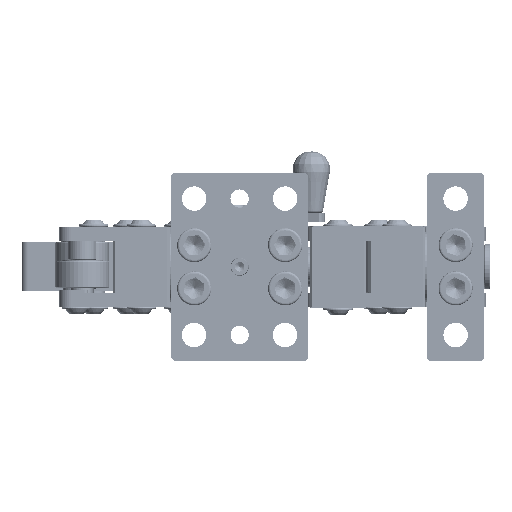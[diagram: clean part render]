
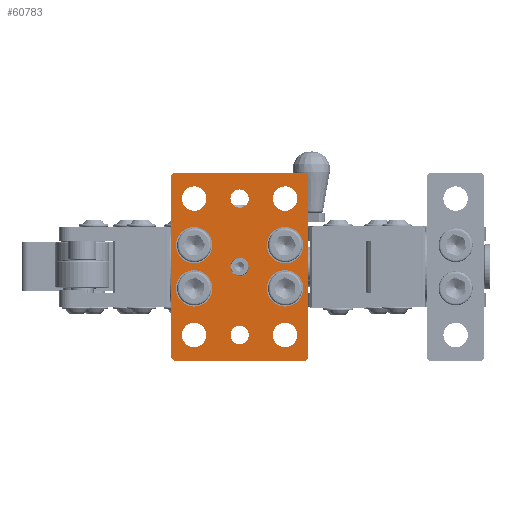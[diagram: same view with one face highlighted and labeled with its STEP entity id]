
A CAD part, left-side view. The second image highlights one B-rep face of the part: STEP entity #60783.
In plain terms, the highlighted planar face has unit normal (-1, 0, 0) as drawn and (0, 0, -1) by its records, which use the part's own axes.
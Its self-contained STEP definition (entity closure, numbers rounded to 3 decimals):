
#5961=FACE_BOUND('',#14600,.T.);
#5962=FACE_BOUND('',#14601,.T.);
#5963=FACE_BOUND('',#14602,.T.);
#5964=FACE_BOUND('',#14603,.T.);
#5965=FACE_BOUND('',#14604,.T.);
#5966=FACE_BOUND('',#14605,.T.);
#5967=FACE_BOUND('',#14606,.T.);
#5968=FACE_BOUND('',#14607,.T.);
#5969=FACE_BOUND('',#14608,.T.);
#5970=FACE_BOUND('',#14609,.T.);
#5971=FACE_BOUND('',#14610,.T.);
#7820=PLANE('',#63933);
#10764=FACE_OUTER_BOUND('',#14599,.T.);
#14599=EDGE_LOOP('',(#55010,#55011,#55012,#55013,#55014,#55015,#55016,#55017));
#14600=EDGE_LOOP('',(#55018));
#14601=EDGE_LOOP('',(#55019));
#14602=EDGE_LOOP('',(#55020));
#14603=EDGE_LOOP('',(#55021));
#14604=EDGE_LOOP('',(#55022));
#14605=EDGE_LOOP('',(#55023));
#14606=EDGE_LOOP('',(#55024));
#14607=EDGE_LOOP('',(#55025));
#14608=EDGE_LOOP('',(#55026));
#14609=EDGE_LOOP('',(#55027));
#14610=EDGE_LOOP('',(#55028));
#20289=LINE('',#102463,#25908);
#20296=LINE('',#102475,#25915);
#20302=LINE('',#102487,#25921);
#20304=LINE('',#102491,#25923);
#20306=LINE('',#102497,#25925);
#20308=LINE('',#102501,#25927);
#20313=LINE('',#102509,#25932);
#20316=LINE('',#102560,#25935);
#25908=VECTOR('',#74285,2.828);
#25915=VECTOR('',#74294,161.);
#25921=VECTOR('',#74304,2.828);
#25923=VECTOR('',#74308,116.);
#25925=VECTOR('',#74314,2.828);
#25927=VECTOR('',#74318,161.);
#25932=VECTOR('',#74325,2.828);
#25935=VECTOR('',#74392,116.);
#27136=CIRCLE('',#63859,8.05);
#27139=CIRCLE('',#63863,8.05);
#27140=CIRCLE('',#63865,8.05);
#27143=CIRCLE('',#63871,10.75);
#27147=CIRCLE('',#63878,10.75);
#27151=CIRCLE('',#63885,10.75);
#27154=CIRCLE('',#63891,10.75);
#27161=CIRCLE('',#63912,16.);
#27164=CIRCLE('',#63918,16.);
#27167=CIRCLE('',#63924,16.);
#27170=CIRCLE('',#63930,16.);
#31950=VERTEX_POINT('',#102404);
#31953=VERTEX_POINT('',#102411);
#31954=VERTEX_POINT('',#102414);
#31957=VERTEX_POINT('',#102423);
#31961=VERTEX_POINT('',#102434);
#31965=VERTEX_POINT('',#102445);
#31968=VERTEX_POINT('',#102454);
#31971=VERTEX_POINT('',#102460);
#31972=VERTEX_POINT('',#102462);
#31976=VERTEX_POINT('',#102473);
#31980=VERTEX_POINT('',#102485);
#31981=VERTEX_POINT('',#102489);
#31982=VERTEX_POINT('',#102494);
#31983=VERTEX_POINT('',#102496);
#31984=VERTEX_POINT('',#102500);
#31993=VERTEX_POINT('',#102529);
#31996=VERTEX_POINT('',#102538);
#31999=VERTEX_POINT('',#102547);
#32002=VERTEX_POINT('',#102556);
#39797=EDGE_CURVE('',#31950,#31950,#27136,.T.);
#39800=EDGE_CURVE('',#31953,#31953,#27139,.T.);
#39801=EDGE_CURVE('',#31954,#31954,#27140,.T.);
#39804=EDGE_CURVE('',#31957,#31957,#27143,.T.);
#39808=EDGE_CURVE('',#31961,#31961,#27147,.T.);
#39812=EDGE_CURVE('',#31965,#31965,#27151,.T.);
#39815=EDGE_CURVE('',#31968,#31968,#27154,.T.);
#39818=EDGE_CURVE('',#31971,#31972,#20289,.T.);
#39825=EDGE_CURVE('',#31971,#31976,#20296,.T.);
#39831=EDGE_CURVE('',#31980,#31976,#20302,.T.);
#39833=EDGE_CURVE('',#31980,#31981,#20304,.T.);
#39835=EDGE_CURVE('',#31982,#31983,#20306,.T.);
#39837=EDGE_CURVE('',#31984,#31983,#20308,.T.);
#39842=EDGE_CURVE('',#31984,#31981,#20313,.T.);
#39851=EDGE_CURVE('',#31993,#31993,#27161,.T.);
#39854=EDGE_CURVE('',#31996,#31996,#27164,.T.);
#39857=EDGE_CURVE('',#31999,#31999,#27167,.T.);
#39860=EDGE_CURVE('',#32002,#32002,#27170,.T.);
#39861=EDGE_CURVE('',#31982,#31972,#20316,.T.);
#55010=ORIENTED_EDGE('',*,*,#39818,.F.);
#55011=ORIENTED_EDGE('',*,*,#39825,.T.);
#55012=ORIENTED_EDGE('',*,*,#39831,.F.);
#55013=ORIENTED_EDGE('',*,*,#39833,.T.);
#55014=ORIENTED_EDGE('',*,*,#39842,.F.);
#55015=ORIENTED_EDGE('',*,*,#39837,.T.);
#55016=ORIENTED_EDGE('',*,*,#39835,.F.);
#55017=ORIENTED_EDGE('',*,*,#39861,.T.);
#55018=ORIENTED_EDGE('',*,*,#39797,.T.);
#55019=ORIENTED_EDGE('',*,*,#39800,.T.);
#55020=ORIENTED_EDGE('',*,*,#39801,.T.);
#55021=ORIENTED_EDGE('',*,*,#39804,.T.);
#55022=ORIENTED_EDGE('',*,*,#39808,.T.);
#55023=ORIENTED_EDGE('',*,*,#39812,.T.);
#55024=ORIENTED_EDGE('',*,*,#39815,.T.);
#55025=ORIENTED_EDGE('',*,*,#39851,.T.);
#55026=ORIENTED_EDGE('',*,*,#39854,.T.);
#55027=ORIENTED_EDGE('',*,*,#39857,.T.);
#55028=ORIENTED_EDGE('',*,*,#39860,.T.);
#60783=ADVANCED_FACE('',(#10764,#5961,#5962,#5963,#5964,#5965,#5966,#5967,
#5968,#5969,#5970,#5971),#7820,.F.);
#63859=AXIS2_PLACEMENT_3D('',#102405,#74215,#74216);
#63863=AXIS2_PLACEMENT_3D('',#102412,#74223,#74224);
#63865=AXIS2_PLACEMENT_3D('',#102415,#74227,#74228);
#63871=AXIS2_PLACEMENT_3D('',#102424,#74239,#74240);
#63878=AXIS2_PLACEMENT_3D('',#102435,#74253,#74254);
#63885=AXIS2_PLACEMENT_3D('',#102446,#74267,#74268);
#63891=AXIS2_PLACEMENT_3D('',#102455,#74279,#74280);
#63912=AXIS2_PLACEMENT_3D('',#102530,#74350,#74351);
#63918=AXIS2_PLACEMENT_3D('',#102539,#74362,#74363);
#63924=AXIS2_PLACEMENT_3D('',#102548,#74374,#74375);
#63930=AXIS2_PLACEMENT_3D('',#102557,#74386,#74387);
#63933=AXIS2_PLACEMENT_3D('',#102561,#74393,#74394);
#74215=DIRECTION('center_axis',(0.,0.,1.));
#74216=DIRECTION('ref_axis',(1.,0.,0.));
#74223=DIRECTION('center_axis',(0.,0.,1.));
#74224=DIRECTION('ref_axis',(1.,0.,0.));
#74227=DIRECTION('center_axis',(0.,0.,1.));
#74228=DIRECTION('ref_axis',(1.,0.,0.));
#74239=DIRECTION('center_axis',(0.,0.,1.));
#74240=DIRECTION('ref_axis',(1.,0.,0.));
#74253=DIRECTION('center_axis',(0.,0.,1.));
#74254=DIRECTION('ref_axis',(1.,0.,0.));
#74267=DIRECTION('center_axis',(0.,0.,1.));
#74268=DIRECTION('ref_axis',(1.,0.,0.));
#74279=DIRECTION('center_axis',(0.,0.,1.));
#74280=DIRECTION('ref_axis',(1.,0.,0.));
#74285=DIRECTION('',(-0.707,-0.707,0.));
#74294=DIRECTION('',(1.,0.,0.));
#74304=DIRECTION('',(-0.707,0.707,0.));
#74308=DIRECTION('',(0.,-1.,0.));
#74314=DIRECTION('',(0.707,-0.707,0.));
#74318=DIRECTION('',(-1.,0.,0.));
#74325=DIRECTION('',(0.707,0.707,0.));
#74350=DIRECTION('center_axis',(0.,0.,1.));
#74351=DIRECTION('ref_axis',(-1.,0.,0.));
#74362=DIRECTION('center_axis',(0.,0.,1.));
#74363=DIRECTION('ref_axis',(-1.,0.,0.));
#74374=DIRECTION('center_axis',(0.,0.,1.));
#74375=DIRECTION('ref_axis',(-1.,0.,0.));
#74386=DIRECTION('center_axis',(0.,0.,1.));
#74387=DIRECTION('ref_axis',(-1.,0.,0.));
#74392=DIRECTION('',(0.,1.,0.));
#74393=DIRECTION('center_axis',(0.,0.,1.));
#74394=DIRECTION('ref_axis',(1.,0.,0.));
#102404=CARTESIAN_POINT('',(-8.05,0.,0.));
#102405=CARTESIAN_POINT('Origin',(0.,0.,0.));
#102411=CARTESIAN_POINT('',(-51.95,0.,0.));
#102412=CARTESIAN_POINT('Origin',(-60.,0.,0.));
#102414=CARTESIAN_POINT('',(68.05,0.,0.));
#102415=CARTESIAN_POINT('Origin',(60.,0.,0.));
#102423=CARTESIAN_POINT('',(70.75,-40.,0.));
#102424=CARTESIAN_POINT('Origin',(60.,-40.,0.));
#102434=CARTESIAN_POINT('',(-49.25,40.,0.));
#102435=CARTESIAN_POINT('Origin',(-60.,40.,0.));
#102445=CARTESIAN_POINT('',(-49.25,-40.,0.));
#102446=CARTESIAN_POINT('Origin',(-60.,-40.,0.));
#102454=CARTESIAN_POINT('',(70.75,40.,0.));
#102455=CARTESIAN_POINT('Origin',(60.,40.,0.));
#102460=CARTESIAN_POINT('',(-80.5,60.,0.));
#102462=CARTESIAN_POINT('',(-82.5,58.,0.));
#102463=CARTESIAN_POINT('',(-75.875,64.625,0.));
#102473=CARTESIAN_POINT('',(80.5,60.,0.));
#102475=CARTESIAN_POINT('',(-82.5,60.,0.));
#102485=CARTESIAN_POINT('',(82.5,58.,0.));
#102487=CARTESIAN_POINT('',(75.875,64.625,0.));
#102489=CARTESIAN_POINT('',(82.5,-58.,0.));
#102491=CARTESIAN_POINT('',(82.5,60.,0.));
#102494=CARTESIAN_POINT('',(-82.5,-58.,0.));
#102496=CARTESIAN_POINT('',(-80.5,-60.,0.));
#102497=CARTESIAN_POINT('',(-75.875,-64.625,0.));
#102500=CARTESIAN_POINT('',(80.5,-60.,0.));
#102501=CARTESIAN_POINT('',(82.5,-60.,0.));
#102509=CARTESIAN_POINT('',(75.875,-64.625,0.));
#102529=CARTESIAN_POINT('',(-35.,-40.,0.));
#102530=CARTESIAN_POINT('Origin',(-19.,-40.,0.));
#102538=CARTESIAN_POINT('',(3.,40.,0.));
#102539=CARTESIAN_POINT('Origin',(19.,40.,0.));
#102547=CARTESIAN_POINT('',(3.,-40.,0.));
#102548=CARTESIAN_POINT('Origin',(19.,-40.,0.));
#102556=CARTESIAN_POINT('',(-35.,40.,0.));
#102557=CARTESIAN_POINT('Origin',(-19.,40.,0.));
#102560=CARTESIAN_POINT('',(-82.5,-60.,0.));
#102561=CARTESIAN_POINT('Origin',(0.,0.,0.));
